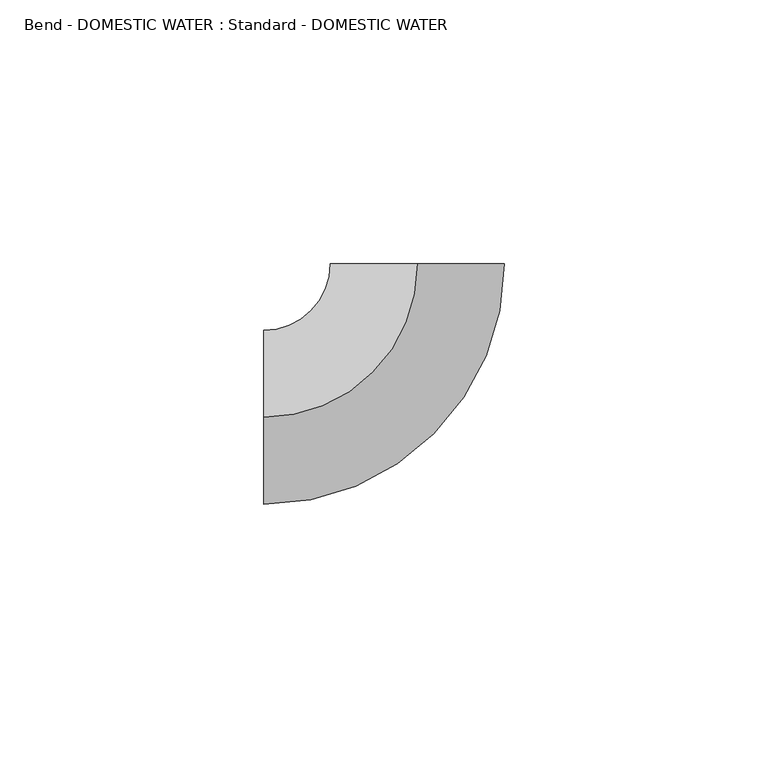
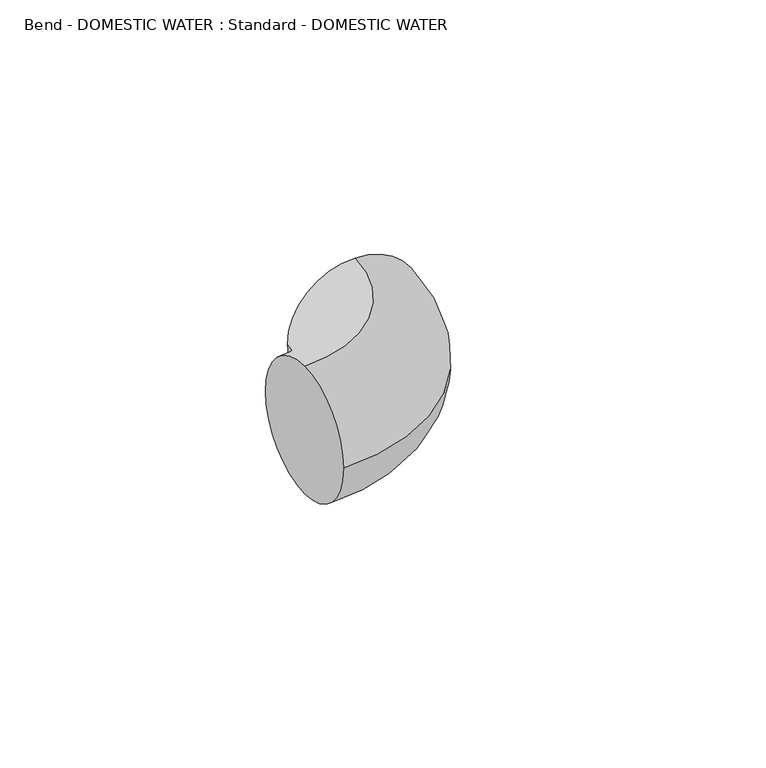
"""IFC4 building model written with IfcOpenShell, lengths in millimetres: pipe fitting geometry, Bend - DOMESTIC WATER : Standard - DOMESTIC WATER."""

from ifc_helpers import new_model, si_unit, point, frame, origin, place, context, project, spatial, circle_curve, ellipse_curve, trimmed, source, transform, mapped, element, save
from ifc_brep_helpers import plane_surface, revolved_surface, advanced_brep


def bend_domestic_water_standard_domestic_water_7788d492(model_context):
    return source(origin(), model_context, "Body", "AdvancedBrep", [
        advanced_brep(
        [(-29.21, 0.0, 16.51), (-29.21, 16.51, 0.0), (-29.21, 0.0, -16.51), (-29.21, -16.51, 0.0), (0.0, 29.21, 16.51), (16.51, 29.21, 0.0), (0.0, 29.21, -16.51), (-16.51, 29.21, 0.0)],
        [
            (0, 1, circle_curve(frame((-29.21, 0.0, 0.0), z_axis=(-1.0, 0.0, 0.0), x_axis=(0.0, 1.0, 0.0)), 16.51)),
            (1, 2, circle_curve(frame((-29.21, 0.0, 0.0), z_axis=(-1.0, 0.0, 0.0), x_axis=(0.0, 1.0, 0.0)), 16.51)),
            (2, 3, circle_curve(frame((-29.21, 0.0, 0.0), z_axis=(-1.0, 0.0, 0.0), x_axis=(0.0, 1.0, 0.0)), 16.51)),
            (3, 0, circle_curve(frame((-29.21, 0.0, 0.0), z_axis=(-1.0, 0.0, 0.0), x_axis=(0.0, 1.0, 0.0)), 16.51)),
            (4, 5, circle_curve(frame((0.0, 29.21, 0.0), z_axis=(0.0, 1.0, 0.0), x_axis=(-1.0, 0.0, 0.0)), 16.51)),
            (5, 6, circle_curve(frame((0.0, 29.21, 0.0), z_axis=(0.0, 1.0, 0.0), x_axis=(-1.0, 0.0, 0.0)), 16.51)),
            (6, 7, circle_curve(frame((0.0, 29.21, 0.0), z_axis=(0.0, 1.0, 0.0), x_axis=(-1.0, 0.0, 0.0)), 16.51)),
            (7, 4, circle_curve(frame((0.0, 29.21, 0.0), z_axis=(0.0, 1.0, 0.0), x_axis=(-1.0, 0.0, 0.0)), 16.51)),
            (7, 1, circle_curve(frame((-29.21, 29.21, 0.0), z_axis=(0.0, 0.0, -1.0), x_axis=(0.0, -1.0, 0.0)), 12.7)),
            (0, 4, circle_curve(frame((-29.21, 29.21, 16.51), z_axis=(0.0, 0.0, 1.0), x_axis=(0.0, -1.0, 0.0)), 29.21)),
            (6, 2, circle_curve(frame((-29.21, 29.21, -16.51), z_axis=(0.0, 0.0, -1.0), x_axis=(0.0, -1.0, 0.0)), 29.21)),
            (5, 3, circle_curve(frame((-29.21, 29.21, 0.0), z_axis=(0.0, 0.0, -1.0), x_axis=(0.0, -1.0, 0.0)), 45.72)),
        ],
        [
            plane_surface(frame((-29.21, 0.0, 0.0), z_axis=(-1.0, 0.0, 0.0), x_axis=(0.0, 0.0, 1.0))),
            plane_surface(frame((0.0, 29.21, 0.0), z_axis=(0.0, 1.0, 0.0), x_axis=(0.0, 0.0, 1.0))),
            revolved_surface(trimmed(ellipse_curve(frame((-29.21, 0.0, 0.0), z_axis=(-1.0, 0.0, 0.0), x_axis=(0.0, 1.0, 0.0)), 16.51, 16.51), [point((-29.21, 0.0, 16.51))], [point((-29.21, 16.51, 0.0))], True, "CARTESIAN"), (-29.21, 29.21, 0.0), (0.0, 0.0, 1.0)),
            revolved_surface(trimmed(ellipse_curve(frame((-29.21, 0.0, 0.0), z_axis=(-1.0, 0.0, 0.0), x_axis=(0.0, 1.0, 0.0)), 16.51, 16.51), [point((-29.21, 16.51, 0.0))], [point((-29.21, 0.0, -16.51))], True, "CARTESIAN"), (-29.21, 29.21, 0.0), (0.0, 0.0, 1.0)),
            revolved_surface(trimmed(ellipse_curve(frame((-29.21, 0.0, 0.0), z_axis=(-1.0, 0.0, 0.0), x_axis=(0.0, 1.0, 0.0)), 16.51, 16.51), [point((-29.21, 0.0, -16.51))], [point((-29.21, -16.51, 0.0))], True, "CARTESIAN"), (-29.21, 29.21, 0.0), (0.0, 0.0, 1.0)),
            revolved_surface(trimmed(ellipse_curve(frame((-29.21, 0.0, 0.0), z_axis=(-1.0, 0.0, 0.0), x_axis=(0.0, 1.0, 0.0)), 16.51, 16.51), [point((-29.21, -16.51, 0.0))], [point((-29.21, 0.0, 16.51))], True, "CARTESIAN"), (-29.21, 29.21, 0.0), (0.0, 0.0, 1.0)),
        ],
        [
            (0, [[1, 2, 3, 4]]),
            (1, [[5, 6, 7, 8]]),
            (2, [[9, -1, 10, -8]]),
            (3, [[11, -2, -9, -7]]),
            (4, [[12, -3, -11, -6]]),
            (5, [[-10, -4, -12, -5]]),
        ],
    ),
        advanced_brep(
        [(-29.21, 0.0, 16.51), (-29.21, 16.51, 0.0), (-29.21, 0.0, -16.51), (-29.21, -16.51, 0.0), (0.0, 29.21, 16.51), (16.51, 29.21, 0.0), (0.0, 29.21, -16.51), (-16.51, 29.21, 0.0)],
        [
            (0, 1, circle_curve(frame((-29.21, 0.0, 0.0), z_axis=(-1.0, 0.0, 0.0), x_axis=(0.0, 1.0, 0.0)), 16.51)),
            (1, 2, circle_curve(frame((-29.21, 0.0, 0.0), z_axis=(-1.0, 0.0, 0.0), x_axis=(0.0, 1.0, 0.0)), 16.51)),
            (2, 3, circle_curve(frame((-29.21, 0.0, 0.0), z_axis=(-1.0, 0.0, 0.0), x_axis=(0.0, 1.0, 0.0)), 16.51)),
            (3, 0, circle_curve(frame((-29.21, 0.0, 0.0), z_axis=(-1.0, 0.0, 0.0), x_axis=(0.0, 1.0, 0.0)), 16.51)),
            (4, 5, circle_curve(frame((0.0, 29.21, 0.0), z_axis=(0.0, 1.0, 0.0), x_axis=(-1.0, 0.0, 0.0)), 16.51)),
            (5, 6, circle_curve(frame((0.0, 29.21, 0.0), z_axis=(0.0, 1.0, 0.0), x_axis=(-1.0, 0.0, 0.0)), 16.51)),
            (6, 7, circle_curve(frame((0.0, 29.21, 0.0), z_axis=(0.0, 1.0, 0.0), x_axis=(-1.0, 0.0, 0.0)), 16.51)),
            (7, 4, circle_curve(frame((0.0, 29.21, 0.0), z_axis=(0.0, 1.0, 0.0), x_axis=(-1.0, 0.0, 0.0)), 16.51)),
            (7, 1, circle_curve(frame((-29.21, 29.21, 0.0), z_axis=(0.0, 0.0, -1.0), x_axis=(0.0, -1.0, 0.0)), 12.7)),
            (0, 4, circle_curve(frame((-29.21, 29.21, 16.51), z_axis=(0.0, 0.0, 1.0), x_axis=(0.0, -1.0, 0.0)), 29.21)),
            (6, 2, circle_curve(frame((-29.21, 29.21, -16.51), z_axis=(0.0, 0.0, -1.0), x_axis=(0.0, -1.0, 0.0)), 29.21)),
            (5, 3, circle_curve(frame((-29.21, 29.21, 0.0), z_axis=(0.0, 0.0, -1.0), x_axis=(0.0, -1.0, 0.0)), 45.72)),
        ],
        [
            plane_surface(frame((-29.21, 0.0, 0.0), z_axis=(-1.0, 0.0, 0.0), x_axis=(0.0, 0.0, 1.0))),
            plane_surface(frame((0.0, 29.21, 0.0), z_axis=(0.0, 1.0, 0.0), x_axis=(0.0, 0.0, 1.0))),
            revolved_surface(trimmed(ellipse_curve(frame((-29.21, 0.0, 0.0), z_axis=(-1.0, 0.0, 0.0), x_axis=(0.0, 1.0, 0.0)), 16.51, 16.51), [point((-29.21, 0.0, 16.51))], [point((-29.21, 16.51, 0.0))], True, "CARTESIAN"), (-29.21, 29.21, 0.0), (0.0, 0.0, 1.0)),
            revolved_surface(trimmed(ellipse_curve(frame((-29.21, 0.0, 0.0), z_axis=(-1.0, 0.0, 0.0), x_axis=(0.0, 1.0, 0.0)), 16.51, 16.51), [point((-29.21, 16.51, 0.0))], [point((-29.21, 0.0, -16.51))], True, "CARTESIAN"), (-29.21, 29.21, 0.0), (0.0, 0.0, 1.0)),
            revolved_surface(trimmed(ellipse_curve(frame((-29.21, 0.0, 0.0), z_axis=(-1.0, 0.0, 0.0), x_axis=(0.0, 1.0, 0.0)), 16.51, 16.51), [point((-29.21, 0.0, -16.51))], [point((-29.21, -16.51, 0.0))], True, "CARTESIAN"), (-29.21, 29.21, 0.0), (0.0, 0.0, 1.0)),
            revolved_surface(trimmed(ellipse_curve(frame((-29.21, 0.0, 0.0), z_axis=(-1.0, 0.0, 0.0), x_axis=(0.0, 1.0, 0.0)), 16.51, 16.51), [point((-29.21, -16.51, 0.0))], [point((-29.21, 0.0, 16.51))], True, "CARTESIAN"), (-29.21, 29.21, 0.0), (0.0, 0.0, 1.0)),
        ],
        [
            (0, [[1, 2, 3, 4]]),
            (1, [[5, 6, 7, 8]]),
            (2, [[9, -1, 10, -8]]),
            (3, [[11, -2, -9, -7]]),
            (4, [[12, -3, -11, -6]]),
            (5, [[-10, -4, -12, -5]]),
        ],
    ),
    ])


if __name__ == "__main__":
    model = new_model("IFC4")
    model_context = context("Model", 3, world=origin())
    ifc_project = project(units=[si_unit("LENGTHUNIT", "METRE", prefix="MILLI")], contexts=[model_context])
    site = spatial("IfcSite", under=ifc_project)
    building = spatial("IfcBuilding", under=site)
    placement = place(None, origin())
    bend_domestic_water_standard_domestic_water_shape = bend_domestic_water_standard_domestic_water_7788d492(model_context)
    element("IfcPipeFitting", 1, ObjectType="Bend - DOMESTIC WATER : Standard - DOMESTIC WATER", at=placement, inside=building, context=model_context, shape_type="MappedRepresentation", body=[
        mapped(bend_domestic_water_standard_domestic_water_shape, transform((0.0, 0.0, 0.0), x_axis=(1.0, 0.0, 0.0), y_axis=(0.0, 1.0, 0.0), z_axis=(0.0, 0.0, 1.0))),
    ])
    save(model, "model.ifc")
